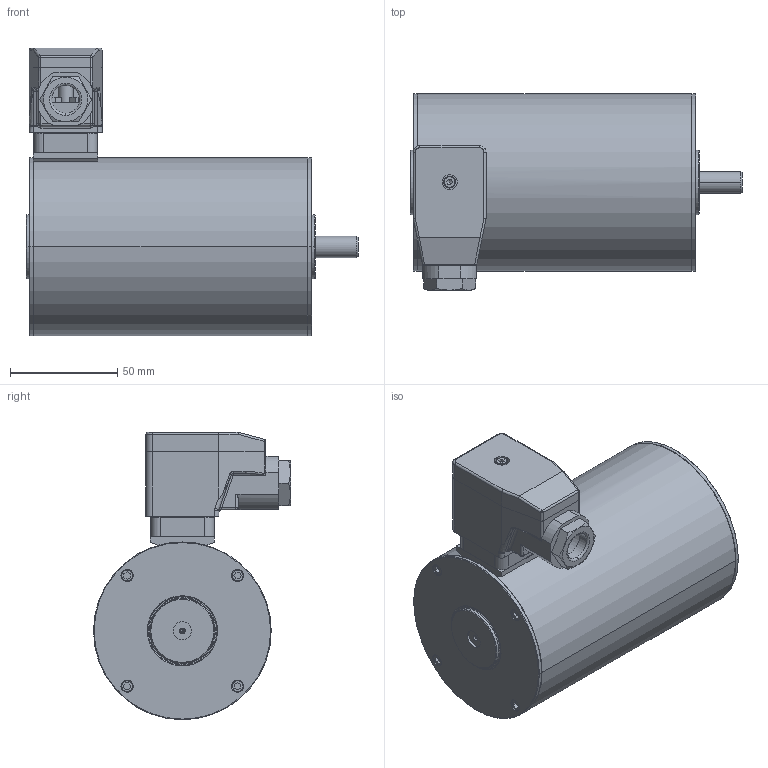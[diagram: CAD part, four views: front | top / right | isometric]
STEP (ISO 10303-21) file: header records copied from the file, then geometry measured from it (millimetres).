
FILE_DESCRIPTION (( 'STEP AP214' ), '1' );
FILE_NAME ('D882.STEP', '2012-04-16T12:31:21', ( ' ' ), ( '' ), 'SwSTEP 2.0', 'SolidWorks 2010', '' );
FILE_SCHEMA (( 'AUTOMOTIVE_DESIGN' ));
Length unit declared in the file: millimetre
Products named in the file (9): D882; 951120054; Hirschmann_GDM 3-21_K2-K22-Dichtung f.Dose; Hirschmann_Einsatz-GDME3020; Hirschmann_GDME3020; 935282005_ﾘ83; Hirschmann_GSAZ-300; 918081021
Assembly tree (8 placements, depth 3):
  D882
    951120054
    D882
    918081021
      Hirschmann_GSAZ-300
      Hirschmann_Einsatz-GDME3020
      Hirschmann_GDME3020
      935282005_ﾘ83
      Hirschmann_GDM 3-21_K2-K22-Dichtung f.Dose
Bounding box: 155 x 91.99 x 134.23 mm (x, y, z)
Volume: 772594.5 mm3; surface area: 80332.4 mm2
Topology: 11 solids, 11 shells, 807 faces, 2053 edges, 1312 vertices
Faces by surface type: plane 424, cylinder 269, cone 68, torus 22, bspline 16, sphere 8
Entity records: 27501 total; most frequent: CARTESIAN_POINT 5678, DIRECTION 4179, ORIENTED_EDGE 4070, EDGE_CURVE 2035, AXIS2_PLACEMENT_3D 1437, VERTEX_POINT 1312, LINE 1305, VECTOR 1305
